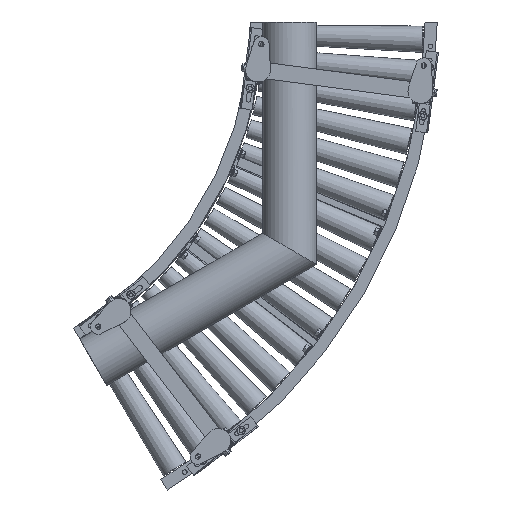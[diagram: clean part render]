
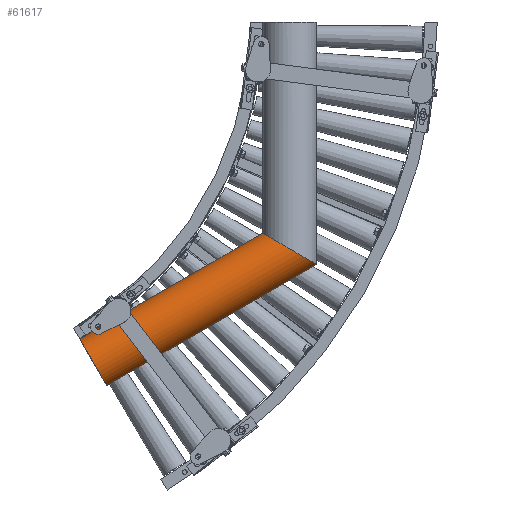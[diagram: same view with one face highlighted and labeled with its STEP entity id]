
A CAD part, front view. The second image highlights one B-rep face of the part: STEP entity #61617.
In plain terms, the highlighted cylindrical face has radius 67.024 mm (diameter 134.048 mm), a partial arc.
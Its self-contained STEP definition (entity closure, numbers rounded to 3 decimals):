
#5234 = CARTESIAN_POINT ( 'NONE',  ( 915.73, -267.933, -528.697 ) ) ;
#8381 = CARTESIAN_POINT ( 'NONE',  ( 483.5, -156.676, -837.447 ) ) ;
#9942 = CARTESIAN_POINT ( 'NONE',  ( 900.7, -166.5, -520.019 ) ) ;
#11514 = CARTESIAN_POINT ( 'NONE',  ( 1018.27, -267.933, -587.899 ) ) ;
#13778 = VECTOR ( 'NONE', #44716, 1000. ) ;
#19187 = VERTEX_POINT ( 'NONE', #38409 ) ;
#23157 = VERTEX_POINT ( 'NONE', #48637 ) ;
#26308 = DIRECTION ( 'NONE',  ( 0.5, 0., -0.866 ) ) ;
#31106 = ORIENTED_EDGE ( 'NONE', *, *, #93511, .T. ) ;
#35228 = AXIS2_PLACEMENT_3D ( 'NONE', #8381, #113666, #26308 ) ;
#36102 = CARTESIAN_POINT ( 'NONE',  ( 1033.3, -166.5, -596.576 ) ) ;
#36514 = DIRECTION ( 'NONE',  ( -0.866, 0., -0.5 ) ) ;
#38409 = CARTESIAN_POINT ( 'NONE',  ( 450.35, -166.5, -780.029 ) ) ;
#44716 = DIRECTION ( 'NONE',  ( -0.866, 0., -0.5 ) ) ;
#48352 = CIRCLE ( 'NONE', #35228, 67.024 ) ;
#48637 = CARTESIAN_POINT ( 'NONE',  ( 516.65, -166.5, -894.864 ) ) ;
#51054 = LINE ( 'NONE', #54299, #13778 ) ;
#52861 = VERTEX_POINT ( 'NONE', #9942 ) ;
#54299 = CARTESIAN_POINT ( 'NONE',  ( 967., -166.5, -481.741 ) ) ;
#56340 = FACE_OUTER_BOUND ( 'NONE', #66914, .T. ) ;
#61617 = ADVANCED_FACE ( 'NONE', ( #56340 ), #101057, .T. ) ;
#62471 = LINE ( 'NONE', #75306, #69852 ) ;
#66549 = ORIENTED_EDGE ( 'NONE', *, *, #72267, .T. ) ;
#66914 = EDGE_LOOP ( 'NONE', ( #31106, #66549, #95150, #119514 ) ) ;
#69852 = VECTOR ( 'NONE', #36514, 1000. ) ;
#72267 = EDGE_CURVE ( 'NONE', #52861, #19187, #51054, .T. ) ;
#75306 = CARTESIAN_POINT ( 'NONE',  ( 1033.3, -166.5, -596.576 ) ) ;
#80577 =( BOUNDED_CURVE ( )  B_SPLINE_CURVE ( 3, ( #98167, #11514, #5234, #117534 ),
 .UNSPECIFIED., .F., .F. ) 
 B_SPLINE_CURVE_WITH_KNOTS ( ( 4, 4 ),
 ( 0.147, 2.994 ),
 .UNSPECIFIED. ) 
 CURVE ( )  GEOMETRIC_REPRESENTATION_ITEM ( )  RATIONAL_B_SPLINE_CURVE ( ( 1., 0.431, 0.431, 1. ) ) 
 REPRESENTATION_ITEM ( '' )  );
#91844 = VERTEX_POINT ( 'NONE', #36102 ) ;
#92071 = EDGE_CURVE ( 'NONE', #91844, #23157, #62471, .T. ) ;
#93511 = EDGE_CURVE ( 'NONE', #91844, #52861, #80577, .T. ) ;
#95150 = ORIENTED_EDGE ( 'NONE', *, *, #111730, .T. ) ;
#95578 = DIRECTION ( 'NONE',  ( -0.5, 0., 0.866 ) ) ;
#98167 = CARTESIAN_POINT ( 'NONE',  ( 1033.3, -166.5, -596.576 ) ) ;
#101057 = CYLINDRICAL_SURFACE ( 'NONE', #104236, 67.024 ) ;
#102610 = CARTESIAN_POINT ( 'NONE',  ( 1000.15, -156.676, -539.159 ) ) ;
#103023 = DIRECTION ( 'NONE',  ( -0.866, 0., -0.5 ) ) ;
#104236 = AXIS2_PLACEMENT_3D ( 'NONE', #102610, #103023, #95578 ) ;
#111730 = EDGE_CURVE ( 'NONE', #19187, #23157, #48352, .T. ) ;
#113666 = DIRECTION ( 'NONE',  ( 0.866, 0., 0.5 ) ) ;
#117534 = CARTESIAN_POINT ( 'NONE',  ( 900.7, -166.5, -520.019 ) ) ;
#119514 = ORIENTED_EDGE ( 'NONE', *, *, #92071, .F. ) ;
